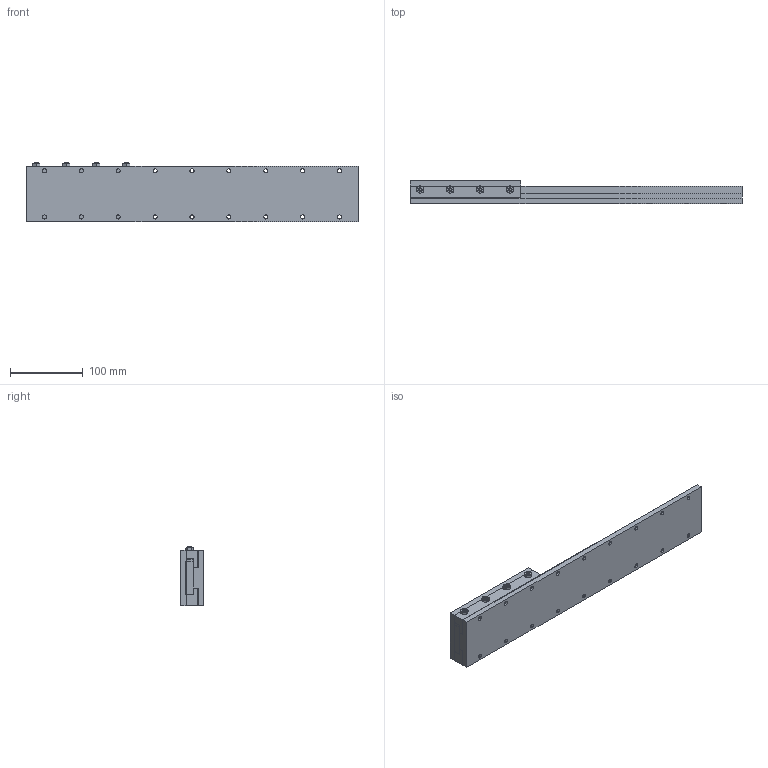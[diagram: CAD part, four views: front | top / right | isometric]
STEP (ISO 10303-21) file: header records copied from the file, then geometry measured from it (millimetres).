
FILE_DESCRIPTION (( 'STEP AP214' ), '1' );
FILE_NAME ('SW03-SL06-BL18.STEP', '2010-10-04T16:02:38', ( ' ' ), ( '' ), 'SwSTEP 2.0', 'SolidWorks 2010', '' );
FILE_SCHEMA (( 'AUTOMOTIVE_DESIGN' ));
Length unit declared in the file: inch
Products named in the file (11): SW03-SL06-BL18; Gen2 Hardplate_03x18 HPLATE; Gen2 Baseplate_03x18 BASE; Gen2 BASE_03x18 BASE; Gen2 Gib_03x06 GIB; Gen2 Top plate_03x06 TPLATE; Gen2 SADDLE_03x06 SADDLE; _MSHXNUT_MSHXNUT 0.190-32-D-N; Gen2 Bar_03x06 BAR; Gen2 Adj Gib_03x06 ADJ GIB; _SSCUPSOC_SSCUPSKT 0.19-32x0.75-HX-N
Assembly tree (16 placements, depth 3):
  SW03-SL06-BL18
    Gen2 SADDLE_03x06 SADDLE
      _SSCUPSOC_SSCUPSKT 0.19-32x0.75-HX-N  x4
      _MSHXNUT_MSHXNUT 0.190-32-D-N  x4
      Gen2 Gib_03x06 GIB
      Gen2 Adj Gib_03x06 ADJ GIB
      Gen2 Top plate_03x06 TPLATE
      Gen2 Bar_03x06 BAR
    Gen2 BASE_03x18 BASE
      Gen2 Baseplate_03x18 BASE
      Gen2 Hardplate_03x18 HPLATE
Bounding box: 457.2 x 31.75 x 81.47 mm (x, y, z)
Volume: 720047.5 mm3; surface area: 223161.6 mm2
Topology: 19 solids, 19 shells, 372 faces, 840 edges, 524 vertices
Faces by surface type: plane 164, cylinder 120, cone 88
Entity records: 7783 total; most frequent: CARTESIAN_POINT 1290, DIRECTION 1270, ORIENTED_EDGE 1100, EDGE_CURVE 550, AXIS2_PLACEMENT_3D 483, VERTEX_POINT 359, EDGE_LOOP 317, LINE 304
